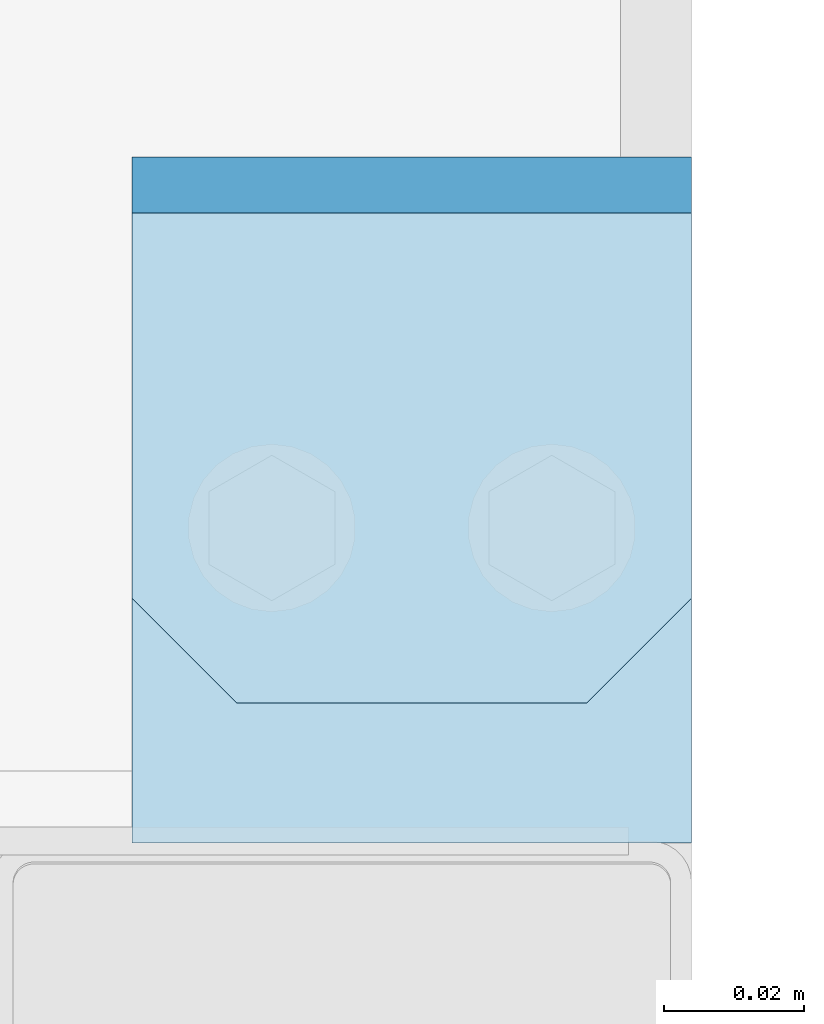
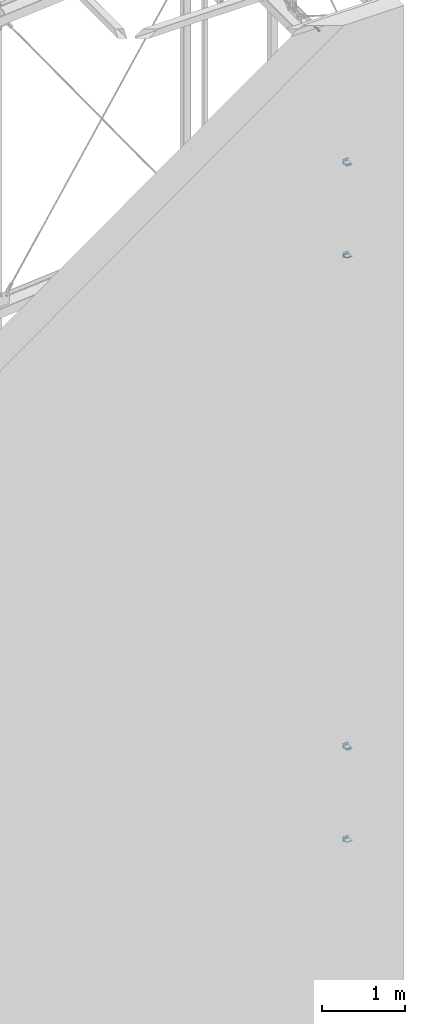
# One storey, part 162 of 271: 12 plates, 6 elements without a shape of their own.
"""IFC2X3 building model written with IfcOpenShell, lengths in millimetres."""

from ifc_helpers import new_model, si_unit, frame, origin_with_axes, place, context, subcontext, project, spatial, polyline, outline, extrude, material, type_object, element, aggregate, save


model = new_model("IFC2X3")

# Units and contexts
model_context = context("Model", 3, precision=1e-05, world=origin_with_axes())
body_context = subcontext(model_context, "Body", "Model", "MODEL_VIEW")
ifc_project = project(units=[si_unit("LENGTHUNIT", "METRE", prefix="MILLI"), si_unit("AREAUNIT", "SQUARE_METRE"), si_unit("VOLUMEUNIT", "CUBIC_METRE"), si_unit("MASSUNIT", "GRAM", prefix="KILO"), si_unit("TIMEUNIT", "SECOND"), si_unit("PLANEANGLEUNIT", "RADIAN"), si_unit("SOLIDANGLEUNIT", "STERADIAN"), si_unit("THERMODYNAMICTEMPERATUREUNIT", "DEGREE_CELSIUS"), si_unit("LUMINOUSINTENSITYUNIT", "LUMEN")], contexts=[model_context])

# Site, building, storey
site_placement = place(None, origin_with_axes())
site = spatial("IfcSite", under=ifc_project, at=site_placement, Name="Undefined", CompositionType="ELEMENT")
building_placement = place(site_placement, origin_with_axes())
building = spatial("IfcBuilding", under=site, at=building_placement, Name="Undefined", CompositionType="ELEMENT")
storey_placement = place(building_placement, origin_with_axes())
storey = spatial("IfcBuildingStorey", under=building, at=storey_placement, Name="Undefined", CompositionType="ELEMENT", Elevation=0.0)

# Assembly, plate
assembly_1_placement = place(storey_placement, origin_with_axes())
assembly_1 = element("IfcElementAssembly", 1, at=assembly_1_placement, inside=storey, AssemblyPlace="NOTDEFINED", PredefinedType="RIGID_FRAME")
ifc_material = material(Name="STEEL/S355JR")
plate_type_1 = type_object("IfcPlateType", Name="BL10*70", PredefinedType="NOTDEFINED")
plate_1_placement = place(assembly_1_placement, frame((12708.3756870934, 984.052119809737, 7154.34999990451), z_axis=(0.0, 0.0, -1.0), x_axis=(-0.707106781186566, -0.707106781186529, 0.0)))
plate_1 = element("IfcPlate", 2, at=plate_1_placement, type_object=plate_type_1, material=ifc_material, Name="BLACHA", ObjectType="BL10*70", context=body_context, shape_type="SweptSolid", body=[
    extrude(outline(polyline([(0.0, 0.0), (21.2132034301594, 1.09139364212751e-11), (56.5685424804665, 35.3553390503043), (56.568542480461, 56.5685424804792), (17.6776695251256, 95.4594192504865), (-38.890872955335, 38.8908729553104), (0.0, 0.0)])), frame((0.0, 0.0, -5.0), z_axis=(0.0, 0.0, 1.0), x_axis=(1.0, 0.0, 0.0)), (0.0, 0.0, 1.0), 10.0),
])

assembly_2_placement = place(storey_placement, origin_with_axes())
assembly_2 = element("IfcElementAssembly", 3, at=assembly_2_placement, inside=storey, AssemblyPlace="NOTDEFINED", PredefinedType="RIGID_FRAME")
plate_2_placement = place(assembly_2_placement, frame((12708.3756870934, 949.052119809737, 7164.34999990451), z_axis=(0.0, 0.0, -1.0), x_axis=(-1.0, 0.0, 1.38777878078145e-17)))
plate_2 = element("IfcPlate", 4, at=plate_2_placement, type_object=plate_type_1, material=ifc_material, Name="BLACHA", ObjectType="BL10*70", context=body_context, shape_type="SweptSolid", body=[
    extrude(outline(polyline([(0.0, 0.0), (80.0, 0.0), (80.0, 70.0), (0.0, 70.0), (0.0, 0.0)])), frame((0.0, 0.0, -5.0), z_axis=(0.0, 0.0, 1.0), x_axis=(1.0, 0.0, 0.0)), (0.0, 0.0, 1.0), 10.0),
])

assembly_3_placement = place(storey_placement, origin_with_axes())
assembly_3 = element("IfcElementAssembly", 5, at=assembly_3_placement, inside=storey, AssemblyPlace="NOTDEFINED", PredefinedType="RIGID_FRAME")
plate_3_placement = place(assembly_3_placement, frame((12628.3756870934, 984.052119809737, 8534.34999990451), z_axis=(0.0, 0.0, 1.0), x_axis=(0.707106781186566, -0.707106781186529, 0.0)))
plate_3 = element("IfcPlate", 6, at=plate_3_placement, type_object=plate_type_1, material=ifc_material, Name="BLACHA", ObjectType="BL10*70", context=body_context, shape_type="SweptSolid", body=[
    extrude(outline(polyline([(0.0, 0.0), (21.2132034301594, 1.09139364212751e-11), (56.5685424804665, 35.3553390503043), (56.568542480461, 56.5685424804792), (17.6776695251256, 95.4594192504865), (-38.890872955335, 38.8908729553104), (0.0, 0.0)])), frame((0.0, 0.0, -5.0), z_axis=(0.0, 0.0, 1.0), x_axis=(1.0, 0.0, 0.0)), (0.0, 0.0, 1.0), 10.0),
])

# Plate
plate_4_placement = place(assembly_2_placement, frame((12628.3756870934, 949.052119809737, 8524.34999990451), z_axis=(0.0, 0.0, 1.0), x_axis=(1.0, 0.0, 0.0)))
plate_4 = element("IfcPlate", 7, at=plate_4_placement, type_object=plate_type_1, material=ifc_material, Name="BLACHA", ObjectType="BL10*70", context=body_context, shape_type="SweptSolid", body=[
    extrude(outline(polyline([(0.0, 0.0), (80.0, 0.0), (80.0, 70.0), (0.0, 70.0), (0.0, 0.0)])), frame((0.0, 0.0, -5.0), z_axis=(0.0, 0.0, 1.0), x_axis=(1.0, 0.0, 0.0)), (0.0, 0.0, 1.0), 10.0),
])

aggregate(assembly_2, [plate_2, plate_4])

# Assembly, plate
assembly_4_placement = place(storey_placement, origin_with_axes())
assembly_4 = element("IfcElementAssembly", 8, at=assembly_4_placement, inside=storey, AssemblyPlace="NOTDEFINED", PredefinedType="RIGID_FRAME")
plate_5_placement = place(assembly_4_placement, frame((12708.3756870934, 984.052119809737, 15794.3499999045), z_axis=(0.0, 0.0, -1.0), x_axis=(-0.707106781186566, -0.707106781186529, 0.0)))
plate_5 = element("IfcPlate", 9, at=plate_5_placement, type_object=plate_type_1, material=ifc_material, Name="BLACHA", ObjectType="BL10*70", context=body_context, shape_type="SweptSolid", body=[
    extrude(outline(polyline([(0.0, 0.0), (21.2132034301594, 1.09139364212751e-11), (56.5685424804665, 35.3553390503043), (56.568542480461, 56.5685424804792), (17.6776695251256, 95.4594192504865), (-38.890872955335, 38.8908729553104), (0.0, 0.0)])), frame((0.0, 0.0, -5.0), z_axis=(0.0, 0.0, 1.0), x_axis=(1.0, 0.0, 0.0)), (0.0, 0.0, 1.0), 10.0),
])

assembly_5_placement = place(storey_placement, origin_with_axes())
assembly_5 = element("IfcElementAssembly", 10, at=assembly_5_placement, inside=storey, AssemblyPlace="NOTDEFINED", PredefinedType="RIGID_FRAME")
plate_6_placement = place(assembly_5_placement, frame((12708.3756870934, 949.052119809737, 15804.3499999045), z_axis=(0.0, 0.0, -1.0), x_axis=(-1.0, 0.0, 1.38777878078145e-17)))
plate_6 = element("IfcPlate", 11, at=plate_6_placement, type_object=plate_type_1, material=ifc_material, Name="BLACHA", ObjectType="BL10*70", context=body_context, shape_type="SweptSolid", body=[
    extrude(outline(polyline([(0.0, 0.0), (80.0, 0.0), (80.0, 70.0), (0.0, 70.0), (0.0, 0.0)])), frame((0.0, 0.0, -5.0), z_axis=(0.0, 0.0, 1.0), x_axis=(1.0, 0.0, 0.0)), (0.0, 0.0, 1.0), 10.0),
])

assembly_6_placement = place(storey_placement, origin_with_axes())
assembly_6 = element("IfcElementAssembly", 12, at=assembly_6_placement, inside=storey, AssemblyPlace="NOTDEFINED", PredefinedType="RIGID_FRAME")
plate_7_placement = place(assembly_6_placement, frame((12628.3756870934, 984.052119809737, 17174.3499999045), z_axis=(0.0, 0.0, 1.0), x_axis=(0.707106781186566, -0.707106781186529, 0.0)))
plate_7 = element("IfcPlate", 13, at=plate_7_placement, type_object=plate_type_1, material=ifc_material, Name="BLACHA", ObjectType="BL10*70", context=body_context, shape_type="SweptSolid", body=[
    extrude(outline(polyline([(0.0, 0.0), (21.2132034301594, 1.09139364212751e-11), (56.5685424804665, 35.3553390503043), (56.568542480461, 56.5685424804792), (17.6776695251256, 95.4594192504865), (-38.890872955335, 38.8908729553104), (0.0, 0.0)])), frame((0.0, 0.0, -5.0), z_axis=(0.0, 0.0, 1.0), x_axis=(1.0, 0.0, 0.0)), (0.0, 0.0, 1.0), 10.0),
])

# Plate
plate_8_placement = place(assembly_5_placement, frame((12628.3756870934, 949.052119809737, 17164.3499999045), z_axis=(0.0, 0.0, 1.0), x_axis=(1.0, 0.0, 0.0)))
plate_8 = element("IfcPlate", 14, at=plate_8_placement, type_object=plate_type_1, material=ifc_material, Name="BLACHA", ObjectType="BL10*70", context=body_context, shape_type="SweptSolid", body=[
    extrude(outline(polyline([(0.0, 0.0), (80.0, 0.0), (80.0, 70.0), (0.0, 70.0), (0.0, 0.0)])), frame((0.0, 0.0, -5.0), z_axis=(0.0, 0.0, 1.0), x_axis=(1.0, 0.0, 0.0)), (0.0, 0.0, 1.0), 10.0),
])

aggregate(assembly_5, [plate_6, plate_8])

plate_type_2 = type_object("IfcPlateType", Name="BL8*80", PredefinedType="NOTDEFINED")
plate_9_placement = place(assembly_1_placement, frame((12708.3756870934, 1043.05211980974, 7194.34999990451), z_axis=(0.0, -1.0, 0.0), x_axis=(-1.0, 0.0, 1.38777878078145e-17)))
plate_9 = element("IfcPlate", 15, at=plate_9_placement, type_object=plate_type_2, material=ifc_material, Name="BLACHA", ObjectType="BL8*80", context=body_context, shape_type="SweptSolid", body=[
    extrude(outline(polyline([(0.0, 0.0), (80.0, 0.0), (80.0, 80.0), (0.0, 80.0), (0.0, 0.0)])), frame((0.0, 0.0, -4.0), z_axis=(0.0, 0.0, 1.0), x_axis=(1.0, 0.0, 0.0)), (0.0, 0.0, 1.0), 8.0),
])

aggregate(assembly_1, [plate_9, plate_1])

plate_10_placement = place(assembly_3_placement, frame((12628.3756870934, 1043.05211980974, 8494.34999990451), z_axis=(0.0, -1.0, 0.0), x_axis=(1.0, 0.0, 0.0)))
plate_10 = element("IfcPlate", 16, at=plate_10_placement, type_object=plate_type_2, material=ifc_material, Name="BLACHA", ObjectType="BL8*80", context=body_context, shape_type="SweptSolid", body=[
    extrude(outline(polyline([(0.0, 0.0), (80.0, 0.0), (80.0, 80.0), (0.0, 80.0), (0.0, 0.0)])), frame((0.0, 0.0, -4.0), z_axis=(0.0, 0.0, 1.0), x_axis=(1.0, 0.0, 0.0)), (0.0, 0.0, 1.0), 8.0),
])

aggregate(assembly_3, [plate_10, plate_3])

plate_11_placement = place(assembly_4_placement, frame((12708.3756870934, 1043.05211980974, 15834.3499999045), z_axis=(0.0, -1.0, 0.0), x_axis=(-1.0, 0.0, 1.38777878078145e-17)))
plate_11 = element("IfcPlate", 17, at=plate_11_placement, type_object=plate_type_2, material=ifc_material, Name="BLACHA", ObjectType="BL8*80", context=body_context, shape_type="SweptSolid", body=[
    extrude(outline(polyline([(0.0, 0.0), (80.0, 0.0), (80.0, 80.0), (0.0, 80.0), (0.0, 0.0)])), frame((0.0, 0.0, -4.0), z_axis=(0.0, 0.0, 1.0), x_axis=(1.0, 0.0, 0.0)), (0.0, 0.0, 1.0), 8.0),
])

aggregate(assembly_4, [plate_11, plate_5])

plate_12_placement = place(assembly_6_placement, frame((12628.3756870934, 1043.05211980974, 17134.3499999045), z_axis=(0.0, -1.0, 0.0), x_axis=(1.0, 0.0, 0.0)))
plate_12 = element("IfcPlate", 18, at=plate_12_placement, type_object=plate_type_2, material=ifc_material, Name="BLACHA", ObjectType="BL8*80", context=body_context, shape_type="SweptSolid", body=[
    extrude(outline(polyline([(0.0, 0.0), (80.0, 0.0), (80.0, 80.0), (0.0, 80.0), (0.0, 0.0)])), frame((0.0, 0.0, -4.0), z_axis=(0.0, 0.0, 1.0), x_axis=(1.0, 0.0, 0.0)), (0.0, 0.0, 1.0), 8.0),
])

aggregate(assembly_6, [plate_12, plate_7])

save(model, "model.ifc")
